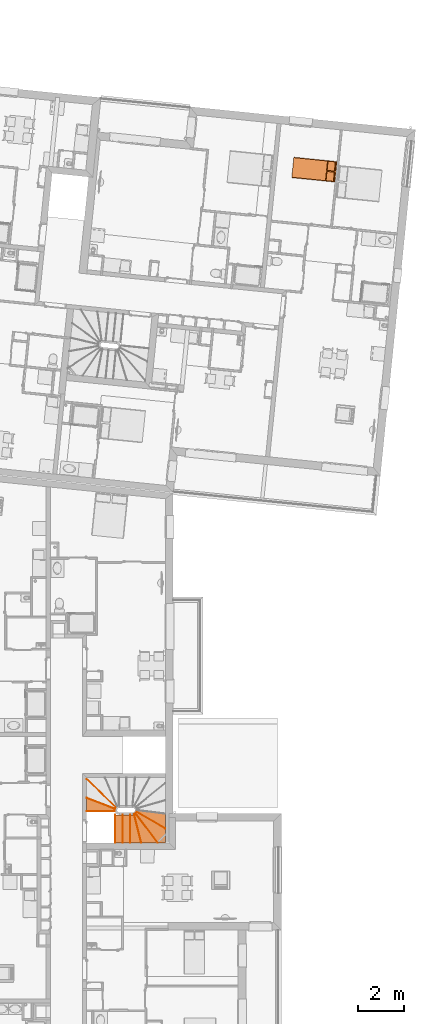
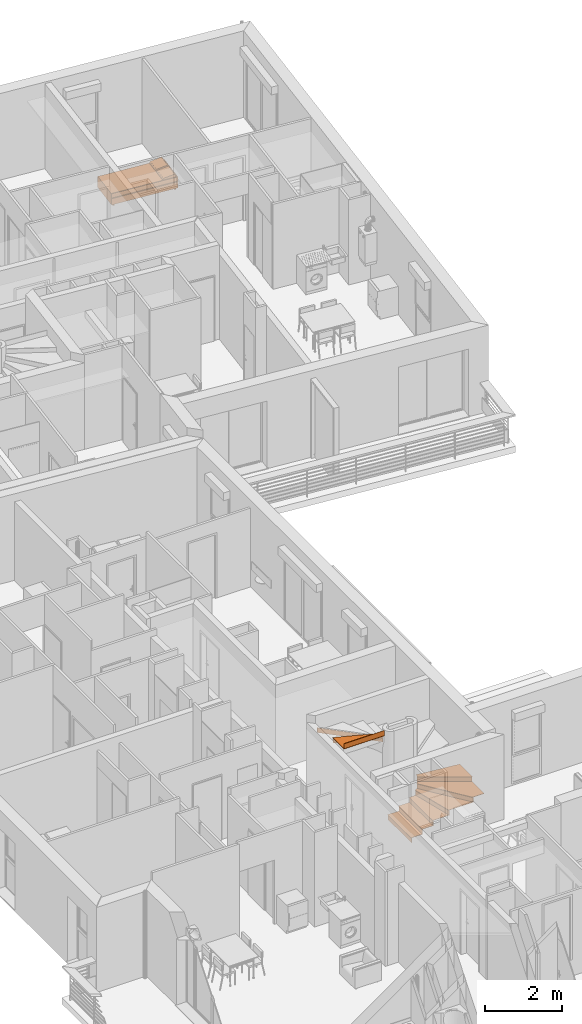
# One storey, part 161 of 164: 17 proxies, 1 element without a shape of its own.
"""IFC2X3 building model written with IfcOpenShell, lengths in millimetres."""

from ifc_helpers import new_model, entity, si_unit, converted_unit, derived_unit, money_unit, direction, frame, origin_with_axes, place, context, subcontext, project, spatial, open_shell, faceted_brep, surface_model, source, transform, mapped, material, type_object, element, aggregate, save


model = new_model("IFC2X3")

# Units and contexts
model_context = context("Model", 3, precision=0.01, world=origin_with_axes(), true_north=direction((0.0, 1.0)))
body_context = subcontext(model_context, "Body", "Model", "MODEL_VIEW")
ifc_project = project(units=[si_unit("LENGTHUNIT", "METRE", prefix="MILLI"), si_unit("AREAUNIT", "SQUARE_METRE"), si_unit("VOLUMEUNIT", "CUBIC_METRE"), converted_unit("PLANEANGLEUNIT", "DEGREE", entity("IfcPlaneAngleMeasure", 0.0174532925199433), si_unit("PLANEANGLEUNIT", "RADIAN"), dimensions=[0, 0, 0, 0, 0, 0, 0]), money_unit("USD"), converted_unit("TIMEUNIT", "Year", entity("IfcTimeMeasure", 31557600.0), si_unit("TIMEUNIT", "SECOND"), dimensions=[0, 0, 1, 0, 0, 0, 0]), si_unit("MASSUNIT", "GRAM", prefix="KILO"), si_unit("THERMODYNAMICTEMPERATUREUNIT", "DEGREE_CELSIUS"), si_unit("LUMINOUSINTENSITYUNIT", "LUMEN"), si_unit("ENERGYUNIT", "JOULE", prefix="MEGA"), derived_unit("THERMALCONDUCTANCEUNIT", [(si_unit("POWERUNIT", "WATT"), 1), (si_unit("LENGTHUNIT", "METRE"), -1), (si_unit("THERMODYNAMICTEMPERATUREUNIT", "KELVIN"), -1)]), derived_unit("SPECIFICHEATCAPACITYUNIT", [(si_unit("ENERGYUNIT", "JOULE"), 1), (si_unit("MASSUNIT", "GRAM", prefix="KILO"), -1), (si_unit("THERMODYNAMICTEMPERATUREUNIT", "KELVIN"), -1)]), derived_unit("MASSDENSITYUNIT", [(si_unit("MASSUNIT", "GRAM", prefix="KILO"), 1), (si_unit("VOLUMEUNIT", "CUBIC_METRE"), -1)])], contexts=[model_context])

# Site, building, storey
site_placement = place(None, origin_with_axes())
site = spatial("IfcSite", under=ifc_project, at=site_placement, Name="Site", CompositionType="ELEMENT")
building_placement = place(site_placement, origin_with_axes())
building = spatial("IfcBuilding", under=site, at=building_placement, Name="Bâtiment", CompositionType="ELEMENT")
storey_placement = place(building_placement, frame((0.0, 0.0, 5750.0), z_axis=(0.0, 0.0, 1.0), x_axis=(1.0, 0.0, 0.0)))
storey = spatial("IfcBuildingStorey", under=building, at=storey_placement, Name="Etage1", CompositionType="ELEMENT", Elevation=5750.0)

# Proxy
building_element_proxy_type_1 = type_object("IfcBuildingElementProxyType", PredefinedType="NOTDEFINED")
shared_shape = source(origin_with_axes(), body_context, "Body", "SurfaceModel", [
    faceted_brep([(-400.0, -95.0, 0.0), (-425.0000000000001, -95.0, 0.0), (-425.0000000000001, -47.5, 0.0), (-400.0, -47.5, 0.0), (-400.0, -95.0, 50.0), (-425.0000000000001, -95.0, 50.0), (-425.0000000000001, -47.5, 50.0), (-400.0, -47.5, 50.0)], [[[0, 1, 2, 3]], [[1, 0, 4, 5]], [[2, 1, 5, 6]], [[3, 2, 6, 7]], [[0, 3, 7, 4]], [[5, 4, 7, 6]]]),
    faceted_brep([(-400.0, -1852.5, 0.0), (-425.0000000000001, -1852.5, 0.0), (-425.0000000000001, -1805.0, 0.0), (-400.0, -1805.0, 0.0), (-400.0, -1852.5, 50.0), (-425.0000000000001, -1852.5, 50.0), (-425.0000000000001, -1805.0, 50.0), (-400.0, -1805.0, 50.0)], [[[0, 1, 2, 3]], [[1, 0, 4, 5]], [[2, 1, 5, 6]], [[3, 2, 6, 7]], [[0, 3, 7, 4]], [[5, 4, 7, 6]]]),
    faceted_brep([(425.0000000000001, -1852.5, 0.0), (400.0, -1852.5, 0.0), (400.0, -1805.0, 0.0), (425.0000000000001, -1805.0, 0.0), (425.0000000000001, -1852.5, 50.0), (400.0, -1852.5, 50.0), (400.0, -1805.0, 50.0), (425.0000000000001, -1805.0, 50.0)], [[[0, 1, 2, 3]], [[1, 0, 4, 5]], [[2, 1, 5, 6]], [[3, 2, 6, 7]], [[0, 3, 7, 4]], [[5, 4, 7, 6]]]),
    faceted_brep([(425.0000000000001, -94.99999999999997, 0.0), (400.0, -94.99999999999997, 0.0), (400.0, -47.49999999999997, 0.0), (425.0000000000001, -47.49999999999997, 0.0), (425.0000000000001, -94.99999999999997, 50.0), (400.0, -94.99999999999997, 50.0), (400.0, -47.49999999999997, 50.0), (425.0000000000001, -47.49999999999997, 50.0)], [[[0, 1, 2, 3]], [[1, 0, 4, 5]], [[2, 1, 5, 6]], [[3, 2, 6, 7]], [[0, 3, 7, 4]], [[5, 4, 7, 6]]]),
    faceted_brep([(-450.0, 0.0, 50.0), (450.0, 0.0, 50.0), (450.0, -1900.0, 50.00000000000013), (-450.0, -1900.0, 50.00000000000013), (-450.0, 0.0, 250.0), (450.0, 0.0, 250.0), (450.0, -1900.0, 250.0000000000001), (-450.0, -1900.0, 250.0000000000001)], [[[0, 1, 2, 3]], [[0, 4, 5, 1]], [[1, 5, 6, 2]], [[3, 2, 6, 7]], [[4, 0, 3, 7]], [[5, 4, 7, 6]]]),
    surface_model("IfcShellBasedSurfaceModel", [(425.0000000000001, 0.0, 250.0), (429.3412044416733, 0.0, 250.7596123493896), (429.3412044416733, -1900.0, 250.7596123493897), (425.0000000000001, -1900.0, 250.0000000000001), (-425.0000000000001, 0.0, 250.0), (-429.3412044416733, 0.0, 250.7596123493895), (-433.5505035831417, 0.0, 253.0153689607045), (-437.5, 0.0, 256.698729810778), (-441.0696902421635, 0.0, 261.6977778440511), (-444.1511110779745, 0.0, 267.860619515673), (-446.650635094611, 0.0, 275.0), (-448.4923155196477, 0.0, 282.8989928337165), (-449.6201938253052, 0.0, 291.3175911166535), (-450.0, 0.0, 300.0000000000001), (-450.0000000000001, 0.0, 350.0), (-449.6201938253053, 0.0, 358.6824088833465), (-448.4923155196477, 0.0, 367.1010071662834), (-446.650635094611, 0.0, 375.0), (-444.1511110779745, 0.0, 382.139380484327), (-441.0696902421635, 0.0, 388.3022221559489), (-437.5000000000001, 0.0, 393.301270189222), (-433.5505035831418, 0.0, 396.9846310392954), (-429.3412044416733, 0.0, 399.2403876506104), (-425.0000000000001, 0.0, 400.0), (425.0, 0.0, 400.0000000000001), (429.3412044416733, 0.0, 399.2403876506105), (433.5505035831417, 0.0, 396.9846310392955), (437.5, 0.0, 393.301270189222), (441.0696902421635, 0.0, 388.3022221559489), (444.1511110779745, 0.0, 382.139380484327), (446.6506350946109, 0.0, 375.0000000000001), (448.4923155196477, 0.0, 367.1010071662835), (449.6201938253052, 0.0, 358.6824088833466), (450.0, 0.0, 350.0000000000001), (450.0, 0.0, 300.0000000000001), (449.6201938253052, 0.0, 291.3175911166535), (448.4923155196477, 0.0, 282.8989928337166), (446.650635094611, 0.0, 275.0), (444.1511110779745, 0.0, 267.8606195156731), (441.0696902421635, 0.0, 261.6977778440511), (437.5000000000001, 0.0, 256.698729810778), (433.5505035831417, 0.0, 253.0153689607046), (433.5505035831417, -1900.0, 253.0153689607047), (-425.0000000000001, -1900.0, 250.0000000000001), (437.5000000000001, -1900.0, 256.6987298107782), (441.0696902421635, -1900.0, 261.6977778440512), (444.1511110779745, -1900.0, 267.8606195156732), (446.650635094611, -1900.0, 275.0000000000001), (448.4923155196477, -1900.0, 282.8989928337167), (449.6201938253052, -1900.0, 291.3175911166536), (450.0, -1900.0, 300.0000000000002), (450.0, -1900.0, 350.0000000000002), (449.6201938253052, -1900.0, 358.6824088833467), (448.4923155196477, -1900.0, 367.1010071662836), (446.6506350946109, -1900.0, 375.0000000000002), (444.1511110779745, -1900.0, 382.1393804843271), (441.0696902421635, -1900.0, 388.302222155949), (437.5, -1900.0, 393.3012701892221), (433.5505035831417, -1900.0, 396.9846310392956), (429.3412044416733, -1900.0, 399.2403876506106), (425.0, -1900.0, 400.0000000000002), (-425.0000000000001, -1900.0, 400.0000000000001), (-429.3412044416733, -1900.0, 399.2403876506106), (-433.5505035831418, -1900.0, 396.9846310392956), (-437.5000000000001, -1900.0, 393.3012701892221), (-441.0696902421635, -1900.0, 388.302222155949), (-444.1511110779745, -1900.0, 382.1393804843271), (-446.650635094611, -1900.0, 375.0000000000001), (-448.4923155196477, -1900.0, 367.1010071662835), (-449.6201938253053, -1900.0, 358.6824088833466), (-450.0000000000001, -1900.0, 350.0000000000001), (-450.0, -1900.0, 300.0000000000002), (-449.6201938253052, -1900.0, 291.3175911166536), (-448.4923155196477, -1900.0, 282.8989928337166), (-446.650635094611, -1900.0, 275.0000000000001), (-444.1511110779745, -1900.0, 267.8606195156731), (-441.0696902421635, -1900.0, 261.6977778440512), (-437.5, -1900.0, 256.6987298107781), (-433.5505035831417, -1900.0, 253.0153689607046), (-429.3412044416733, -1900.0, 250.7596123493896)], [open_shell([[[0, 1, 2, 3]], [[4, 5, 6, 7, 8, 9, 10, 11, 12, 13, 14, 15, 16, 17, 18, 19, 20, 21, 22, 23, 24, 25, 26, 27, 28, 29, 30, 31, 32, 33, 34, 35, 36, 37, 38, 39, 40, 41, 1, 0]], [[1, 41, 42, 2]], [[43, 3, 2, 42, 44, 45, 46, 47, 48, 49, 50, 51, 52, 53, 54, 55, 56, 57, 58, 59, 60, 61, 62, 63, 64, 65, 66, 67, 68, 69, 70, 71, 72, 73, 74, 75, 76, 77, 78, 79]], [[5, 4, 43, 79]], [[6, 5, 79, 78]], [[7, 6, 78, 77]], [[8, 7, 77, 76]], [[9, 8, 76, 75]], [[10, 9, 75, 74]], [[11, 10, 74, 73]], [[12, 11, 73, 72]], [[13, 12, 72, 71]], [[14, 13, 71, 70]], [[15, 14, 70, 69]], [[16, 15, 69, 68]], [[17, 16, 68, 67]], [[18, 17, 67, 66]], [[19, 18, 66, 65]], [[20, 19, 65, 64]], [[21, 20, 64, 63]], [[22, 21, 63, 62]], [[23, 22, 62, 61]], [[24, 23, 61, 60]], [[25, 24, 60, 59]], [[26, 25, 59, 58]], [[27, 26, 58, 57]], [[28, 27, 57, 56]], [[29, 28, 56, 55]], [[30, 29, 55, 54]], [[31, 30, 54, 53]], [[32, 31, 53, 52]], [[33, 32, 52, 51]], [[34, 33, 51, 50]], [[35, 34, 50, 49]], [[36, 35, 49, 48]], [[37, 36, 48, 47]], [[38, 37, 47, 46]], [[39, 38, 46, 45]], [[40, 39, 45, 44]], [[41, 40, 44, 42]]])]),
    faceted_brep([(24.99999999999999, -47.49999999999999, 400.0), (24.99999999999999, -47.49999999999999, 443.4), (425.0, -47.50000000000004, 443.4000000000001), (425.0, -47.50000000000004, 400.0000000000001), (24.99999999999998, -427.5, 400.0), (24.99999999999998, -427.6960812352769, 408.695442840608), (24.99999999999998, -426.4675711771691, 417.2966661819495), (24.99999999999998, -423.8511300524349, 425.5469991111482), (24.99999999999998, -419.9248356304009, 433.2002417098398), (24.99999999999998, -414.8058532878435, 440.0280119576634), (24.99999999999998, -408.6469396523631, 445.826560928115), (24.99999999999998, -401.6318841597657, 450.4228529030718), (24.99999999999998, -393.9700245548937, 453.6797289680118), (24.99999999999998, -385.89, 455.5), (24.99999999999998, -100.89, 493.0000000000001), (24.99999999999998, -92.85488048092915, 493.3370808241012), (24.99999999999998, -84.88093291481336, 492.2422169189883), (24.99999999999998, -77.19681007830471, 489.7468034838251), (24.99999999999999, -70.02285403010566, 485.922396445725), (24.99999999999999, -63.56477780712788, 480.878660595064), (24.99999999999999, -58.00776660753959, 474.7602249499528), (24.99999999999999, -53.51116760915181, 467.7425355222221), (24.99999999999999, -50.20392069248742, 460.0268244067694), (24.99999999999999, -48.18086109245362, 451.834339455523), (425.0, -48.18086109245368, 451.8343394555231), (425.0, -50.20392069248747, 460.0268244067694), (425.0, -53.51116760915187, 467.7425355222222), (425.0, -58.00776660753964, 474.7602249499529), (425.0, -63.56477780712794, 480.878660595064), (425.0, -70.02285403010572, 485.922396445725), (425.0, -77.19681007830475, 489.7468034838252), (425.0, -84.88093291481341, 492.2422169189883), (425.0, -92.85488048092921, 493.3370808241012), (425.0, -100.8900000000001, 493.0000000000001), (425.0, -385.89, 455.5000000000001), (425.0, -393.9700245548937, 453.6797289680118), (425.0, -401.6318841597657, 450.4228529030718), (425.0, -408.6469396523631, 445.826560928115), (425.0, -414.8058532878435, 440.0280119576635), (425.0, -419.924835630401, 433.2002417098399), (425.0, -423.8511300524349, 425.5469991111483), (425.0, -426.4675711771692, 417.2966661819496), (425.0, -427.6960812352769, 408.6954428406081), (425.0, -427.5, 400.0000000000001)], [[[0, 1, 2, 3]], [[0, 4, 5, 6, 7, 8, 9, 10, 11, 12, 13, 14, 15, 16, 17, 18, 19, 20, 21, 22, 23, 1]], [[1, 23, 24, 2]], [[3, 2, 24, 25, 26, 27, 28, 29, 30, 31, 32, 33, 34, 35, 36, 37, 38, 39, 40, 41, 42, 43]], [[4, 0, 3, 43]], [[5, 4, 43, 42]], [[6, 5, 42, 41]], [[7, 6, 41, 40]], [[8, 7, 40, 39]], [[9, 8, 39, 38]], [[10, 9, 38, 37]], [[11, 10, 37, 36]], [[12, 11, 36, 35]], [[13, 12, 35, 34]], [[14, 13, 34, 33]], [[15, 14, 33, 32]], [[16, 15, 32, 31]], [[17, 16, 31, 30]], [[18, 17, 30, 29]], [[19, 18, 29, 28]], [[20, 19, 28, 27]], [[21, 20, 27, 26]], [[22, 21, 26, 25]], [[23, 22, 25, 24]]]),
    faceted_brep([(-425.0000000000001, -47.49999999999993, 399.9999999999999), (-425.0000000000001, -47.49999999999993, 443.4), (-25.00000000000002, -47.49999999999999, 443.4), (-25.00000000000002, -47.49999999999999, 400.0), (-425.0000000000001, -427.4999999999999, 399.9999999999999), (-425.0000000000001, -427.6960812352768, 408.6954428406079), (-425.0000000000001, -426.4675711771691, 417.2966661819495), (-425.0000000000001, -423.8511300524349, 425.5469991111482), (-425.0000000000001, -419.9248356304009, 433.2002417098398), (-425.0000000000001, -414.8058532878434, 440.0280119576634), (-425.0000000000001, -408.646939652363, 445.8265609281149), (-425.0000000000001, -401.6318841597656, 450.4228529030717), (-425.0000000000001, -393.9700245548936, 453.6797289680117), (-425.0000000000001, -385.8899999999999, 455.4999999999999), (-425.0000000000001, -100.89, 493.0), (-425.0000000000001, -92.8548804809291, 493.3370808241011), (-425.0000000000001, -84.8809329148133, 492.2422169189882), (-425.0000000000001, -77.19681007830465, 489.7468034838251), (-425.0000000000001, -70.0228540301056, 485.9223964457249), (-425.0000000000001, -63.56477780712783, 480.8786605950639), (-425.0000000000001, -58.00776660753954, 474.7602249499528), (-425.0000000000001, -53.51116760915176, 467.7425355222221), (-425.0000000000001, -50.20392069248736, 460.0268244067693), (-425.0000000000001, -48.18086109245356, 451.834339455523), (-25.00000000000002, -48.18086109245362, 451.834339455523), (-25.00000000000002, -50.20392069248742, 460.0268244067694), (-25.00000000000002, -53.51116760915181, 467.7425355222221), (-25.00000000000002, -58.00776660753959, 474.7602249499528), (-25.00000000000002, -63.56477780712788, 480.878660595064), (-25.00000000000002, -70.02285403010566, 485.922396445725), (-25.00000000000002, -77.19681007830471, 489.7468034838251), (-25.00000000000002, -84.88093291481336, 492.2422169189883), (-25.00000000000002, -92.85488048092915, 493.3370808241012), (-25.00000000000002, -100.89, 493.0000000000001), (-25.00000000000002, -385.8899999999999, 455.5), (-25.00000000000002, -393.9700245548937, 453.6797289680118), (-25.00000000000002, -401.6318841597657, 450.4228529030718), (-25.00000000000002, -408.6469396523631, 445.826560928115), (-25.00000000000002, -414.8058532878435, 440.0280119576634), (-25.00000000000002, -419.9248356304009, 433.2002417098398), (-25.00000000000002, -423.8511300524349, 425.5469991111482), (-25.00000000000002, -426.4675711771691, 417.2966661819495), (-25.00000000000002, -427.6960812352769, 408.695442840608), (-25.00000000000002, -427.4999999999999, 400.0)], [[[0, 1, 2, 3]], [[0, 4, 5, 6, 7, 8, 9, 10, 11, 12, 13, 14, 15, 16, 17, 18, 19, 20, 21, 22, 23, 1]], [[1, 23, 24, 2]], [[3, 2, 24, 25, 26, 27, 28, 29, 30, 31, 32, 33, 34, 35, 36, 37, 38, 39, 40, 41, 42, 43]], [[4, 0, 3, 43]], [[5, 4, 43, 42]], [[6, 5, 42, 41]], [[7, 6, 41, 40]], [[8, 7, 40, 39]], [[9, 8, 39, 38]], [[10, 9, 38, 37]], [[11, 10, 37, 36]], [[12, 11, 36, 35]], [[13, 12, 35, 34]], [[14, 13, 34, 33]], [[15, 14, 33, 32]], [[16, 15, 32, 31]], [[17, 16, 31, 30]], [[18, 17, 30, 29]], [[19, 18, 29, 28]], [[20, 19, 28, 27]], [[21, 20, 27, 26]], [[22, 21, 26, 25]], [[23, 22, 25, 24]]]),
])
proxy_1_placement = place(storey_placement, frame((2236740.673358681, -608071.3492002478, 0.0), z_axis=(0.0, 0.0, 1.0), x_axis=(-0.1011033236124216, -0.9948759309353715, 0.0)))
element("IfcBuildingElementProxy", 1, at=proxy_1_placement, inside=storey, type_object=building_element_proxy_type_1, Name="Obj.-003", context=body_context, shape_type="MappedRepresentation", body=[
    mapped(shared_shape, transform((0.0, 0.0, 0.0))),
])

# Stair, proxies
stair_placement = place(storey_placement, frame((2227115.16403848, -636013.3434519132, 0.0), z_axis=(0.0, 0.0, 1.0), x_axis=(1.0, 0.0, 0.0)))
stair = element("IfcStair", 2, at=stair_placement, inside=storey, Name="ESC-020", ShapeType="NOTDEFINED")
ifc_material_1 = material(Name="Parpaing 2676271321")
building_element_proxy_type_2 = type_object("IfcBuildingElementProxyType", Name="IfcBuildingElementProxy", PredefinedType="NOTDEFINED")
proxy_2_placement = place(stair_placement, frame((-0.0001228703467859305, -609.9999999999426, 151.7647058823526), z_axis=(0.0, 0.0, 1.0), x_axis=(-2.014264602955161e-07, -0.9999999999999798, 0.0)))
proxy_2 = element("IfcBuildingElementProxy", 3, at=proxy_2_placement, type_object=building_element_proxy_type_2, material=ifc_material_1, Name="C-MARCHE-332", context=body_context, shape_type="Brep", body=[
    faceted_brep([(610.0000000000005, 15.0, 0.0), (610.0000000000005, 24.99999999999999, 0.0), (-610.0, 24.99999999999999, 0.0), (-610.0, 15.0, 0.0), (610.0000000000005, 15.00000000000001, -151.7647058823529), (610.0000000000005, 25.0, -151.7647058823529), (-610.0, 25.0, -151.7647058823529), (-610.0, 15.00000000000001, -151.7647058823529)], [[[0, 1, 2, 3]], [[0, 4, 5, 1]], [[1, 5, 6, 2]], [[3, 2, 6, 7]], [[4, 0, 3, 7]], [[5, 4, 7, 6]]]),
])
proxy_3_placement = place(stair_placement, frame((325.100443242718, -610.0000654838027, 313.5294117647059), z_axis=(0.0, 0.0, 1.0), x_axis=(-2.014264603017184e-07, -0.9999999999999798, 0.0)))
proxy_3 = element("IfcBuildingElementProxy", 4, at=proxy_3_placement, type_object=building_element_proxy_type_2, material=ifc_material_1, Name="C-MARCHE-333", context=body_context, shape_type="Brep", body=[
    faceted_brep([(610.0000000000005, 15.0, 0.0), (610.0000000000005, 24.99999999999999, 0.0), (-610.0, 24.99999999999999, 0.0), (-610.0, 15.0, 0.0), (610.0000000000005, 15.00000000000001, -151.7647058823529), (610.0000000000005, 25.0, -151.7647058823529), (-610.0, 25.0, -151.7647058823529), (-610.0, 15.00000000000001, -151.7647058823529)], [[[0, 1, 2, 3]], [[0, 4, 5, 1]], [[1, 5, 6, 2]], [[3, 2, 6, 7]], [[4, 0, 3, 7]], [[5, 4, 7, 6]]]),
])
proxy_4_placement = place(stair_placement, frame((650.2010093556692, -610.0001309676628, 475.2941176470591), z_axis=(0.0, 0.0, 1.0), x_axis=(-2.014264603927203e-07, -0.9999999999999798, 0.0)))
proxy_4 = element("IfcBuildingElementProxy", 5, at=proxy_4_placement, type_object=building_element_proxy_type_2, material=ifc_material_1, Name="C-MARCHE-334", context=body_context, shape_type="Brep", body=[
    faceted_brep([(610.0000000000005, 15.0, 0.0), (610.0000000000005, 24.99999999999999, 0.0), (-610.0, 24.99999999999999, 0.0), (-610.0, 15.0, 0.0), (610.0000000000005, 15.00000000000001, -151.7647058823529), (610.0000000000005, 25.0, -151.7647058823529), (-610.0, 25.0, -151.7647058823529), (-610.0, 15.00000000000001, -151.7647058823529)], [[[0, 1, 2, 3]], [[0, 4, 5, 1]], [[1, 5, 6, 2]], [[3, 2, 6, 7]], [[4, 0, 3, 7]], [[5, 4, 7, 6]]]),
])
proxy_5_placement = place(stair_placement, frame((973.3676057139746, -586.1824886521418, 637.0588235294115), z_axis=(0.0, 0.0, 1.0), x_axis=(0.2407289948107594, -0.9705923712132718, 0.0)))
proxy_5 = element("IfcBuildingElementProxy", 6, at=proxy_5_placement, type_object=building_element_proxy_type_2, material=ifc_material_1, Name="C-MARCHE-335", context=body_context, shape_type="Brep", body=[
    faceted_brep([(656.741899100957, 15.00000000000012, 0.0), (659.22212879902, 25.00000000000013, 0.0), (-611.315975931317, 25.00000000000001, 0.0), (-610.5635345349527, 15.00000000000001, 0.0), (656.741899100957, 15.00000000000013, -151.7647058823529), (659.22212879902, 25.00000000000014, -151.7647058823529), (-611.315975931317, 25.00000000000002, -151.7647058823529), (-610.5635345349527, 15.00000000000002, -151.7647058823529)], [[[0, 1, 2, 3]], [[0, 4, 5, 1]], [[1, 5, 6, 2]], [[3, 2, 6, 7]], [[4, 0, 3, 7]], [[5, 4, 7, 6]]]),
])
proxy_6_placement = place(stair_placement, frame((1265.005003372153, -447.5227900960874, 798.8235294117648), z_axis=(0.0, 0.0, 1.0), x_axis=(0.6008131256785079, -0.7993895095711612, 0.0)))
proxy_6 = element("IfcBuildingElementProxy", 7, at=proxy_6_placement, type_object=building_element_proxy_type_2, material=ifc_material_1, Name="C-MARCHE-336", context=body_context, shape_type="Brep", body=[
    faceted_brep([(977.6082535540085, 15.00000000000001, 0.0), (985.1241562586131, 25.00000000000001, 0.0), (-611.315975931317, 24.9999999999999, 0.0), (-610.5635345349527, 14.9999999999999, 0.0), (977.6082535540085, 15.00000000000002, -151.7647058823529), (985.1241562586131, 25.00000000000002, -151.7647058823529), (-611.315975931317, 24.99999999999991, -151.7647058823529), (-610.5635345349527, 14.99999999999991, -151.7647058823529)], [[[0, 1, 2, 3]], [[0, 4, 5, 1]], [[1, 5, 6, 2]], [[3, 2, 6, 7]], [[4, 0, 3, 7]], [[5, 4, 7, 6]]]),
])
proxy_7_placement = place(stair_placement, frame((1479.285947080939, -205.939345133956, 960.588235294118), z_axis=(0.0, 0.0, 1.0), x_axis=(0.8653853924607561, -0.501106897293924, 0.0)))
proxy_7 = element("IfcBuildingElementProxy", 8, at=proxy_7_placement, type_object=building_element_proxy_type_2, material=ifc_material_1, Name="C-MARCHE-337", context=body_context, shape_type="Brep", body=[
    faceted_brep([(821.0010736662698, 15.00000000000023, 0.0), (815.1882107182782, 25.00000000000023, 0.0), (-611.315975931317, 25.00000000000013, 0.0), (-610.5635345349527, 15.00000000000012, 0.0), (821.0010736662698, 15.00000000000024, -151.764705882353), (815.1882107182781, 25.00000000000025, -151.764705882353), (-611.315975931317, 25.00000000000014, -151.764705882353), (-610.5635345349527, 15.00000000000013, -151.764705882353)], [[[0, 1, 2, 3]], [[0, 4, 5, 1]], [[1, 5, 6, 2]], [[3, 2, 6, 7]], [[4, 0, 3, 7]], [[5, 4, 7, 6]]]),
])
proxy_8_placement = place(stair_placement, frame((-382.594805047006, 762.6261828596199, 2416.470588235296), z_axis=(0.0, 0.0, 1.0), x_axis=(-0.719223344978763, 0.6947789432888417, 0.0)))
proxy_8 = element("IfcBuildingElementProxy", 9, at=proxy_8_placement, type_object=building_element_proxy_type_2, material=ifc_material_1, Name="C-MARCHE-346", context=body_context, shape_type="Brep", body=[
    faceted_brep([(1153.599827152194, 14.99999999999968, 0.0), (1143.900879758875, 24.99999999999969, 0.0), (-611.3159759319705, 25.00000000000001, 0.0), (-610.5635345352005, 15.00000000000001, 0.0), (1153.599827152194, 14.99999999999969, -151.7647058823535), (1143.900879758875, 24.99999999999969, -151.7647058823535), (-611.3159759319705, 25.00000000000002, -151.7647058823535), (-610.5635345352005, 15.00000000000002, -151.7647058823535)], [[[0, 1, 2, 3]], [[0, 4, 5, 1]], [[1, 5, 6, 2]], [[3, 2, 6, 7]], [[4, 0, 3, 7]], [[5, 4, 7, 6]]]),
])
proxy_9_placement = place(stair_placement, frame((-556.1499030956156, 490.3074143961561, 2578.235294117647), z_axis=(0.0, 0.0, 1.0), x_axis=(-0.9335114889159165, 0.3585474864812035, 0.0)))
proxy_9 = element("IfcBuildingElementProxy", 10, at=proxy_9_placement, type_object=building_element_proxy_type_2, material=ifc_material_1, Name="C-MARCHE-347", context=body_context, shape_type="Brep", body=[
    faceted_brep([(706.5081019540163, 15.00000000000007, 0.0), (702.6442387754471, 25.00000000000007, 0.0), (-611.3159759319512, 25.00000000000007, 0.0), (-610.563534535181, 15.00000000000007, 0.0), (706.5081019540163, 15.00000000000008, -151.764705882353), (702.6442387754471, 25.00000000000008, -151.764705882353), (-611.3159759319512, 25.00000000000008, -151.764705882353), (-610.563534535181, 15.00000000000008, -151.764705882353)], [[[0, 1, 2, 3]], [[0, 4, 5, 1]], [[1, 5, 6, 2]], [[3, 2, 6, 7]], [[4, 0, 3, 7]], [[5, 4, 7, 6]]]),
])
proxy_10_placement = place(stair_placement, frame((-609.9999402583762, 171.8189697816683, 2750.0), z_axis=(0.0, 0.0, 1.0), x_axis=(-0.9999999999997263, 7.398341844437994e-07, 0.0)))
proxy_10 = element("IfcBuildingElementProxy", 11, at=proxy_10_placement, type_object=building_element_proxy_type_2, material=ifc_material_1, Name="C-MARCHE-348", context=body_context, shape_type="Brep", body=[
    faceted_brep([(609.9999999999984, 14.99999999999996, 0.0), (609.9999999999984, 24.99999999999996, 0.0), (-609.9999999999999, 24.99999999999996, 0.0), (-609.9999999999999, 14.99999999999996, 0.0), (609.9999999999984, 14.99999999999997, -161.7647058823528), (609.9999999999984, 24.99999999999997, -161.7647058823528), (-609.9999999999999, 24.99999999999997, -161.7647058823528), (-609.9999999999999, 14.99999999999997, -161.7647058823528)], [[[0, 1, 2, 3]], [[0, 4, 5, 1]], [[1, 5, 6, 2]], [[3, 2, 6, 7]], [[4, 0, 3, 7]], [[5, 4, 7, 6]]]),
])
ifc_material_2 = material(Name="Lame d'air 275581351")
proxy_11_placement = place(stair_placement, frame((-0.0001228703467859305, -609.9999999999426, 161.7647058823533), z_axis=(0.0, 0.0, 1.0), x_axis=(-2.014264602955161e-07, -0.9999999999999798, 0.0)))
proxy_11 = element("IfcBuildingElementProxy", 12, at=proxy_11_placement, type_object=building_element_proxy_type_2, material=ifc_material_2, Name="MARCHE-332", context=body_context, shape_type="Brep", body=[
    faceted_brep([(-610.0, 0.0, -10.0), (610.0000000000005, 0.0, -10.0), (610.0000000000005, 0.0, 0.0), (-610.0, 0.0, 0.0), (-610.0, 350.1005682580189, -10.0), (610.0000000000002, 350.1005594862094, -10.0), (610.0000000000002, 350.1005594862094, 0.0), (-610.0, 350.1005682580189, 0.0)], [[[0, 1, 2, 3]], [[0, 4, 5, 1]], [[1, 5, 6, 2]], [[3, 2, 6, 7]], [[4, 0, 3, 7]], [[5, 4, 7, 6]]]),
])
proxy_12_placement = place(stair_placement, frame((325.100443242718, -610.0000654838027, 323.5294117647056), z_axis=(0.0, 0.0, 1.0), x_axis=(-2.014264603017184e-07, -0.9999999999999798, 0.0)))
proxy_12 = element("IfcBuildingElementProxy", 13, at=proxy_12_placement, type_object=building_element_proxy_type_2, material=ifc_material_2, Name="MARCHE-333", context=body_context, shape_type="Brep", body=[
    faceted_brep([(-610.0, 0.0, -10.0), (610.0000000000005, 0.0, -10.0), (610.0000000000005, 0.0, 0.0), (-610.0, 0.0, 0.0), (-610.0, 350.1005682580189, -10.0), (610.0000000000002, 350.1005594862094, -10.0), (610.0000000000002, 350.1005594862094, 0.0), (-610.0, 350.1005682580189, 0.0)], [[[0, 1, 2, 3]], [[0, 4, 5, 1]], [[1, 5, 6, 2]], [[3, 2, 6, 7]], [[4, 0, 3, 7]], [[5, 4, 7, 6]]]),
])
proxy_13_placement = place(stair_placement, frame((650.2010093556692, -610.0001309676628, 485.2941176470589), z_axis=(0.0, 0.0, 1.0), x_axis=(-2.014264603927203e-07, -0.9999999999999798, 0.0)))
proxy_13 = element("IfcBuildingElementProxy", 14, at=proxy_13_placement, type_object=building_element_proxy_type_2, material=ifc_material_2, Name="MARCHE-334", context=body_context, shape_type="Brep", body=[
    faceted_brep([(-610.0000000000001, 0.0, -10.0), (610.0, 0.0, -10.0), (610.0, 0.0, 0.0), (-610.0000000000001, 0.0, 0.0), (-610.0000000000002, 128.1965044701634, -10.0), (-613.3837442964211, 164.8225887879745, -10.0), (-623.4204307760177, 200.2088107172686, -10.0), (610.0000000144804, 506.1254089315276, -10.0), (610.0, 128.1965037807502, -10.0), (610.0, 128.1965037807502, 0.0), (610.0000000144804, 506.1254089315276, 0.0), (-623.4204307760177, 200.2088107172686, 0.0), (-613.3837442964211, 164.8225887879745, 0.0), (-610.0000000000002, 128.1965044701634, 0.0)], [[[0, 1, 2, 3]], [[0, 4, 5, 6, 7, 8, 1]], [[1, 8, 9, 2]], [[3, 2, 9, 10, 11, 12, 13]], [[4, 0, 3, 13]], [[5, 4, 13, 12]], [[6, 5, 12, 11]], [[7, 6, 11, 10]], [[8, 7, 10, 9]]]),
])
proxy_14_placement = place(stair_placement, frame((973.3676057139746, -586.1824886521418, 647.0588235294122), z_axis=(0.0, 0.0, 1.0), x_axis=(0.2407289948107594, -0.9705923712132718, 0.0)))
proxy_14 = element("IfcBuildingElementProxy", 15, at=proxy_14_placement, type_object=building_element_proxy_type_2, material=ifc_material_2, Name="MARCHE-335", context=body_context, shape_type="Brep", body=[
    faceted_brep([(-610.0, 0.0, -10.0), (653.0215545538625, 0.0, -10.0), (653.0215545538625, 0.0, 0.0), (-610.0, 0.0, 0.0), (-613.0741059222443, 34.92373452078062, -10.0), (-622.2018820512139, 68.77341787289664, -10.0), (-637.1026110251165, 100.5080304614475, -10.0), (832.6768914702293, 724.3495917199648, -10.0), (832.6768914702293, 724.3495917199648, 0.0), (-637.1026110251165, 100.5080304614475, 0.0), (-622.2018820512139, 68.77341787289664, 0.0), (-613.0741059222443, 34.92373452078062, 0.0)], [[[0, 1, 2, 3]], [[0, 4, 5, 6, 7, 1]], [[1, 7, 8, 2]], [[3, 2, 8, 9, 10, 11]], [[4, 0, 3, 11]], [[5, 4, 11, 10]], [[6, 5, 10, 9]], [[7, 6, 9, 8]]]),
])
proxy_15_placement = place(stair_placement, frame((1265.005003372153, -447.5227900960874, 808.8235294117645), z_axis=(0.0, 0.0, 1.0), x_axis=(0.6008131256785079, -0.7993895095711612, 0.0)))
proxy_15 = element("IfcBuildingElementProxy", 16, at=proxy_15_placement, type_object=building_element_proxy_type_2, material=ifc_material_2, Name="MARCHE-336", context=body_context, shape_type="Brep", body=[
    faceted_brep([(-610.0, 0.0, -10.0), (966.3343994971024, 0.0, -10.0), (966.3343994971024, 0.0, 0.0), (-610.0, 0.0, 0.0), (-613.0741059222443, 34.92373452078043, -10.0), (-622.201882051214, 68.77341787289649, -10.0), (-637.1026110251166, 100.5080304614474, -10.0), (676.2483896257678, 657.9541897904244, -10.0), (1178.253624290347, 281.9611071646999, -10.0), (1178.253624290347, 281.9611071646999, 0.0), (676.2483896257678, 657.9541897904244, 0.0), (-637.1026110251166, 100.5080304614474, 0.0), (-622.201882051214, 68.77341787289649, 0.0), (-613.0741059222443, 34.92373452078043, 0.0)], [[[0, 1, 2, 3]], [[0, 4, 5, 6, 7, 8, 1]], [[1, 8, 9, 2]], [[3, 2, 9, 10, 11, 12, 13]], [[4, 0, 3, 13]], [[5, 4, 13, 12]], [[6, 5, 12, 11]], [[7, 6, 11, 10]], [[8, 7, 10, 9]]]),
])
proxy_16_placement = place(stair_placement, frame((1479.285947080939, -205.939345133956, 970.5882352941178), z_axis=(0.0, 0.0, 1.0), x_axis=(0.8653853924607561, -0.501106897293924, 0.0)))
proxy_16 = element("IfcBuildingElementProxy", 17, at=proxy_16_placement, type_object=building_element_proxy_type_2, material=ifc_material_2, Name="MARCHE-337", context=body_context, shape_type="Brep", body=[
    faceted_brep([(-610.0, 0.0, -10.0), (829.7203680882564, 0.0, -10.0), (829.7203680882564, 0.0, 0.0), (-610.0, 0.0, 0.0), (-615.4656237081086, 46.42674873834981, -10.0), (-631.5636368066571, 90.31490221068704, -10.0), (-637.1026110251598, 100.5080304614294, -10.0), (492.5768707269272, 579.9956069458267, -10.0), (492.5768707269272, 579.9956069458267, 0.0), (-637.1026110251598, 100.5080304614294, 0.0), (-631.5636368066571, 90.31490221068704, 0.0), (-615.4656237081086, 46.42674873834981, 0.0)], [[[0, 1, 2, 3]], [[0, 4, 5, 6, 7, 1]], [[1, 7, 8, 2]], [[3, 2, 8, 9, 10, 11]], [[4, 0, 3, 11]], [[5, 4, 11, 10]], [[6, 5, 10, 9]], [[7, 6, 9, 8]]]),
])
proxy_17_placement = place(stair_placement, frame((-556.1499030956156, 490.3074143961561, 2588.235294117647), z_axis=(0.0, 0.0, 1.0), x_axis=(-0.9335114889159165, 0.3585474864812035, 0.0)))
proxy_17 = element("IfcBuildingElementProxy", 18, at=proxy_17_placement, type_object=building_element_proxy_type_2, material=ifc_material_2, Name="MARCHE-347", context=body_context, shape_type="Brep", body=[
    faceted_brep([(-609.9999999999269, 0.0, -10.0), (712.3038967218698, 0.0, -10.0), (712.3038967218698, 0.0, 0.0), (-609.9999999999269, 0.0, 0.0), (-613.351096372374, 36.45046483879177, -10.0), (-623.292039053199, 71.6789177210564, -10.0), (-633.3657729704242, 97.90687214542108, -10.0), (-642.3294428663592, 121.2446659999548, -10.0), (496.5548972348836, 558.6717569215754, -10.0), (505.5185671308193, 535.333963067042, -10.0), (515.5923685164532, 509.1058329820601, -10.0), (515.5923685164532, 509.1058329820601, 0.0), (505.5185671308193, 535.333963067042, 0.0), (496.5548972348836, 558.6717569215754, 0.0), (-642.3294428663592, 121.2446659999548, 0.0), (-633.3657729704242, 97.90687214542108, 0.0), (-623.292039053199, 71.6789177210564, 0.0), (-613.351096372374, 36.45046483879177, 0.0)], [[[0, 1, 2, 3]], [[0, 4, 5, 6, 7, 8, 9, 10, 1]], [[1, 10, 11, 2]], [[3, 2, 11, 12, 13, 14, 15, 16, 17]], [[4, 0, 3, 17]], [[5, 4, 17, 16]], [[6, 5, 16, 15]], [[7, 6, 15, 14]], [[8, 7, 14, 13]], [[9, 8, 13, 12]], [[10, 9, 12, 11]]]),
])
aggregate(stair, [proxy_2, proxy_3, proxy_4, proxy_5, proxy_6, proxy_7, proxy_8, proxy_9, proxy_10, proxy_11, proxy_12, proxy_13, proxy_14, proxy_15, proxy_16, proxy_17])

save(model, "model.ifc")
